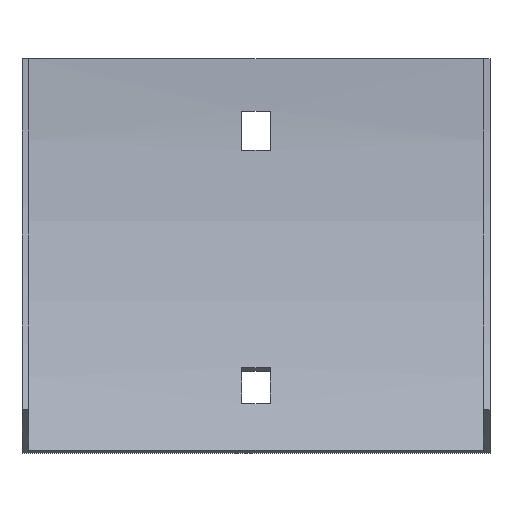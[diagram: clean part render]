
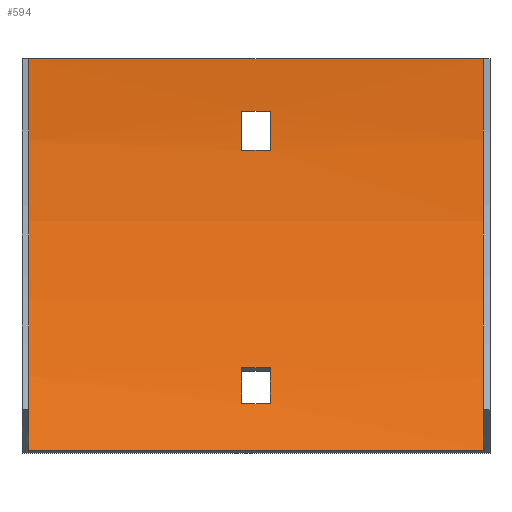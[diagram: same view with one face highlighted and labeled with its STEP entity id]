
A CAD part, front view. The second image highlights one B-rep face of the part: STEP entity #594.
In plain terms, the highlighted cylindrical face has radius 179 mm (diameter 358 mm), a partial arc.
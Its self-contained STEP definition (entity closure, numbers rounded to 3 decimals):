
#1 = CIRCLE ( 'NONE', #390, 179. ) ;
#3 = VERTEX_POINT ( 'NONE', #429 ) ;
#22 = DIRECTION ( 'NONE',  ( -1., 0., 0. ) ) ;
#28 = EDGE_CURVE ( 'NONE', #175, #506, #185, .T. ) ;
#36 = EDGE_CURVE ( 'NONE', #3, #279, #360, .T. ) ;
#39 = DIRECTION ( 'NONE',  ( -1., 0., 0. ) ) ;
#42 = VERTEX_POINT ( 'NONE', #471 ) ;
#50 = CARTESIAN_POINT ( 'NONE',  ( 3.25, -2.736, -21. ) ) ;
#58 = DIRECTION ( 'NONE',  ( 0., 0., 1. ) ) ;
#61 = CYLINDRICAL_SURFACE ( 'NONE', #218, 179. ) ;
#62 = CARTESIAN_POINT ( 'NONE',  ( 52., -25.481, -89.5 ) ) ;
#67 = CARTESIAN_POINT ( 'NONE',  ( 52., -180.5, 0. ) ) ;
#71 = DIRECTION ( 'NONE',  ( -1., 0., 0. ) ) ;
#72 = CARTESIAN_POINT ( 'NONE',  ( 53.5, -19.83, -78.906 ) ) ;
#73 = DIRECTION ( 'NONE',  ( 0., 0., 1. ) ) ;
#86 = CARTESIAN_POINT ( 'NONE',  ( -3.25, -180.5, 0. ) ) ;
#92 = AXIS2_PLACEMENT_3D ( 'NONE', #571, #159, #467 ) ;
#93 = CARTESIAN_POINT ( 'NONE',  ( -3.25, -1.903, -12. ) ) ;
#97 = CARTESIAN_POINT ( 'NONE',  ( 3.25, -16.052, -70.695 ) ) ;
#98 = ORIENTED_EDGE ( 'NONE', *, *, #28, .T. ) ;
#101 = CARTESIAN_POINT ( 'NONE',  ( 53.5, -180.5, 0. ) ) ;
#103 = ORIENTED_EDGE ( 'NONE', *, *, #209, .F. ) ;
#105 = CIRCLE ( 'NONE', #151, 179. ) ;
#114 = ORIENTED_EDGE ( 'NONE', *, *, #334, .T. ) ;
#119 = ORIENTED_EDGE ( 'NONE', *, *, #36, .F. ) ;
#121 = DIRECTION ( 'NONE',  ( 0., 0., 1. ) ) ;
#136 = VERTEX_POINT ( 'NONE', #351 ) ;
#147 = EDGE_CURVE ( 'NONE', #595, #42, #532, .T. ) ;
#151 = AXIS2_PLACEMENT_3D ( 'NONE', #593, #192, #454 ) ;
#159 = DIRECTION ( 'NONE',  ( 1., 0., 0. ) ) ;
#163 = EDGE_CURVE ( 'NONE', #506, #595, #1, .T. ) ;
#169 = CARTESIAN_POINT ( 'NONE',  ( 3.25, -180.5, 0. ) ) ;
#175 = VERTEX_POINT ( 'NONE', #438 ) ;
#179 = DIRECTION ( 'NONE',  ( 0., 0., -1. ) ) ;
#184 = DIRECTION ( 'NONE',  ( 1., 0., 0. ) ) ;
#185 = LINE ( 'NONE', #190, #297 ) ;
#186 = VERTEX_POINT ( 'NONE', #441 ) ;
#190 = CARTESIAN_POINT ( 'NONE',  ( 53.5, -16.052, -70.695 ) ) ;
#192 = DIRECTION ( 'NONE',  ( 1., 0., 0. ) ) ;
#197 = EDGE_LOOP ( 'NONE', ( #466, #103, #380, #503 ) ) ;
#202 = VECTOR ( 'NONE', #22, 1000. ) ;
#209 = EDGE_CURVE ( 'NONE', #136, #242, #392, .T. ) ;
#218 = AXIS2_PLACEMENT_3D ( 'NONE', #101, #567, #121 ) ;
#219 = CARTESIAN_POINT ( 'NONE',  ( 53.5, -1.903, -12. ) ) ;
#227 = AXIS2_PLACEMENT_3D ( 'NONE', #86, #184, #179 ) ;
#234 = DIRECTION ( 'NONE',  ( 1., 0., 0. ) ) ;
#235 = CARTESIAN_POINT ( 'NONE',  ( 3.25, -19.83, -78.906 ) ) ;
#236 = ORIENTED_EDGE ( 'NONE', *, *, #163, .T. ) ;
#242 = VERTEX_POINT ( 'NONE', #93 ) ;
#254 = AXIS2_PLACEMENT_3D ( 'NONE', #67, #234, #58 ) ;
#256 = VECTOR ( 'NONE', #386, 1000. ) ;
#265 = EDGE_CURVE ( 'NONE', #600, #136, #105, .T. ) ;
#270 = DIRECTION ( 'NONE',  ( 0., 0., 1. ) ) ;
#279 = VERTEX_POINT ( 'NONE', #457 ) ;
#286 = FACE_BOUND ( 'NONE', #348, .T. ) ;
#293 = EDGE_LOOP ( 'NONE', ( #119, #377, #495, #331 ) ) ;
#296 = EDGE_CURVE ( 'NONE', #242, #577, #487, .T. ) ;
#297 = VECTOR ( 'NONE', #365, 1000. ) ;
#299 = CARTESIAN_POINT ( 'NONE',  ( 52., -1.5, 0. ) ) ;
#311 = CIRCLE ( 'NONE', #227, 179. ) ;
#331 = ORIENTED_EDGE ( 'NONE', *, *, #530, .T. ) ;
#334 = EDGE_CURVE ( 'NONE', #42, #175, #311, .T. ) ;
#348 = EDGE_LOOP ( 'NONE', ( #423, #114, #98, #236 ) ) ;
#351 = CARTESIAN_POINT ( 'NONE',  ( 3.25, -1.903, -12. ) ) ;
#360 = CIRCLE ( 'NONE', #92, 179. ) ;
#365 = DIRECTION ( 'NONE',  ( 1., 0., 0. ) ) ;
#375 = FACE_BOUND ( 'NONE', #197, .T. ) ;
#377 = ORIENTED_EDGE ( 'NONE', *, *, #481, .F. ) ;
#380 = ORIENTED_EDGE ( 'NONE', *, *, #265, .F. ) ;
#382 = VECTOR ( 'NONE', #507, 1000. ) ;
#386 = DIRECTION ( 'NONE',  ( -1., 0., 0. ) ) ;
#390 = AXIS2_PLACEMENT_3D ( 'NONE', #169, #582, #73 ) ;
#392 = LINE ( 'NONE', #219, #444 ) ;
#397 = DIRECTION ( 'NONE',  ( -1., 0., 0. ) ) ;
#406 = LINE ( 'NONE', #501, #382 ) ;
#408 = CIRCLE ( 'NONE', #254, 179. ) ;
#416 = EDGE_CURVE ( 'NONE', #528, #186, #408, .T. ) ;
#423 = ORIENTED_EDGE ( 'NONE', *, *, #147, .T. ) ;
#428 = LINE ( 'NONE', #565, #256 ) ;
#429 = CARTESIAN_POINT ( 'NONE',  ( -52., -25.481, -89.5 ) ) ;
#438 = CARTESIAN_POINT ( 'NONE',  ( -3.25, -16.052, -70.695 ) ) ;
#441 = CARTESIAN_POINT ( 'NONE',  ( 52., -1.5, 0. ) ) ;
#444 = VECTOR ( 'NONE', #397, 1000. ) ;
#454 = DIRECTION ( 'NONE',  ( 0., 0., -1. ) ) ;
#457 = CARTESIAN_POINT ( 'NONE',  ( -52., -1.5, 0. ) ) ;
#466 = ORIENTED_EDGE ( 'NONE', *, *, #296, .F. ) ;
#467 = DIRECTION ( 'NONE',  ( 0., 0., 1. ) ) ;
#468 = AXIS2_PLACEMENT_3D ( 'NONE', #589, #39, #270 ) ;
#471 = CARTESIAN_POINT ( 'NONE',  ( -3.25, -19.83, -78.906 ) ) ;
#472 = FACE_OUTER_BOUND ( 'NONE', #293, .T. ) ;
#479 = LINE ( 'NONE', #299, #489 ) ;
#481 = EDGE_CURVE ( 'NONE', #528, #3, #428, .T. ) ;
#487 = CIRCLE ( 'NONE', #468, 179. ) ;
#489 = VECTOR ( 'NONE', #71, 1000. ) ;
#495 = ORIENTED_EDGE ( 'NONE', *, *, #416, .T. ) ;
#501 = CARTESIAN_POINT ( 'NONE',  ( 53.5, -2.736, -21. ) ) ;
#503 = ORIENTED_EDGE ( 'NONE', *, *, #564, .F. ) ;
#506 = VERTEX_POINT ( 'NONE', #97 ) ;
#507 = DIRECTION ( 'NONE',  ( 1., 0., 0. ) ) ;
#528 = VERTEX_POINT ( 'NONE', #62 ) ;
#530 = EDGE_CURVE ( 'NONE', #186, #279, #479, .T. ) ;
#532 = LINE ( 'NONE', #72, #202 ) ;
#564 = EDGE_CURVE ( 'NONE', #577, #600, #406, .T. ) ;
#565 = CARTESIAN_POINT ( 'NONE',  ( 52., -25.481, -89.5 ) ) ;
#567 = DIRECTION ( 'NONE',  ( -1., 0., 0. ) ) ;
#571 = CARTESIAN_POINT ( 'NONE',  ( -52., -180.5, 0. ) ) ;
#577 = VERTEX_POINT ( 'NONE', #602 ) ;
#582 = DIRECTION ( 'NONE',  ( -1., 0., 0. ) ) ;
#589 = CARTESIAN_POINT ( 'NONE',  ( -3.25, -180.5, 0. ) ) ;
#593 = CARTESIAN_POINT ( 'NONE',  ( 3.25, -180.5, 0. ) ) ;
#594 = ADVANCED_FACE ( 'NONE', ( #375, #472, #286 ), #61, .F. ) ;
#595 = VERTEX_POINT ( 'NONE', #235 ) ;
#600 = VERTEX_POINT ( 'NONE', #50 ) ;
#602 = CARTESIAN_POINT ( 'NONE',  ( -3.25, -2.736, -21. ) ) ;
